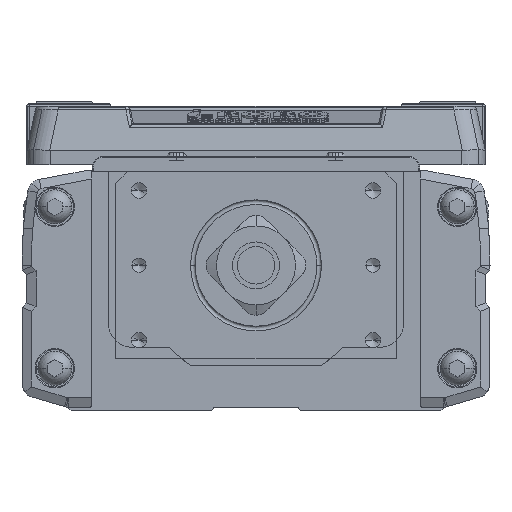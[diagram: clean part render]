
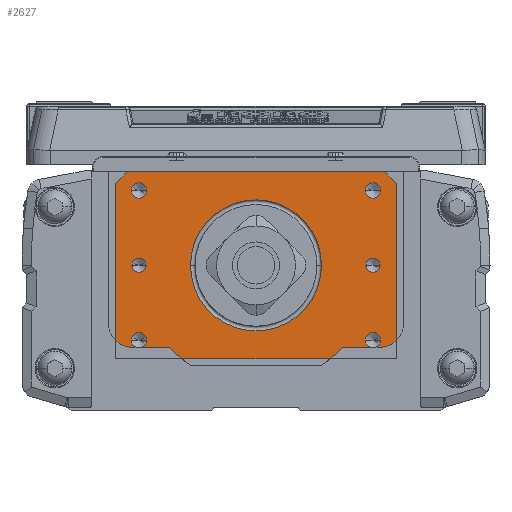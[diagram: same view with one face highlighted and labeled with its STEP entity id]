
A CAD part, left-side view. The second image highlights one B-rep face of the part: STEP entity #2627.
In plain terms, the highlighted planar face has unit normal (-1, 0, 0).
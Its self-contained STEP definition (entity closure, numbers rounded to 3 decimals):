
#2627=ADVANCED_FACE('',(#6734,#6735,#6736,#6737,#6738,#6739,#6740,#6741),#6742,.T.);
#6734=FACE_BOUND('',#12751,.T.);
#6735=FACE_BOUND('',#12752,.T.);
#6736=FACE_BOUND('',#12753,.T.);
#6737=FACE_BOUND('',#12754,.T.);
#6738=FACE_BOUND('',#12755,.T.);
#6739=FACE_BOUND('',#12756,.T.);
#6740=FACE_BOUND('',#12757,.T.);
#6741=FACE_OUTER_BOUND('',#12758,.T.);
#6742=PLANE('',#12759);
#12751=EDGE_LOOP('',(#20188,#20189));
#12752=EDGE_LOOP('',(#20190,#20191));
#12753=EDGE_LOOP('',(#20192,#20193));
#12754=EDGE_LOOP('',(#20194,#20195));
#12755=EDGE_LOOP('',(#20196,#20197));
#12756=EDGE_LOOP('',(#20198,#20199));
#12757=EDGE_LOOP('',(#20200,#20201,#20202));
#12758=EDGE_LOOP('',(#20203,#20204,#20205,#20206,#20207,#20208));
#12759=AXIS2_PLACEMENT_3D('',#20209,#20210,#20211);
#20188=ORIENTED_EDGE('',*,*,#36379,.T.);
#20189=ORIENTED_EDGE('',*,*,#36380,.T.);
#20190=ORIENTED_EDGE('',*,*,#36054,.T.);
#20191=ORIENTED_EDGE('',*,*,#36381,.T.);
#20192=ORIENTED_EDGE('',*,*,#36382,.T.);
#20193=ORIENTED_EDGE('',*,*,#35380,.T.);
#20194=ORIENTED_EDGE('',*,*,#36383,.T.);
#20195=ORIENTED_EDGE('',*,*,#36384,.T.);
#20196=ORIENTED_EDGE('',*,*,#36385,.T.);
#20197=ORIENTED_EDGE('',*,*,#36386,.T.);
#20198=ORIENTED_EDGE('',*,*,#36387,.T.);
#20199=ORIENTED_EDGE('',*,*,#36388,.T.);
#20200=ORIENTED_EDGE('',*,*,#36389,.T.);
#20201=ORIENTED_EDGE('',*,*,#35401,.T.);
#20202=ORIENTED_EDGE('',*,*,#36390,.T.);
#20203=ORIENTED_EDGE('',*,*,#36391,.F.);
#20204=ORIENTED_EDGE('',*,*,#36392,.F.);
#20205=ORIENTED_EDGE('',*,*,#36393,.T.);
#20206=ORIENTED_EDGE('',*,*,#36394,.T.);
#20207=ORIENTED_EDGE('',*,*,#36395,.F.);
#20208=ORIENTED_EDGE('',*,*,#36396,.T.);
#20209=CARTESIAN_POINT('',(-580.,0.,-20.));
#20210=DIRECTION('',(-1.0,0.,0.));
#20211=DIRECTION('',(0.,-1.0,0.));
#35380=EDGE_CURVE('',#42184,#42181,#42185,.T.);
#35401=EDGE_CURVE('',#42216,#42220,#42222,.T.);
#36054=EDGE_CURVE('',#43366,#43369,#43371,.T.);
#36379=EDGE_CURVE('',#43919,#43920,#43921,.T.);
#36380=EDGE_CURVE('',#43920,#43919,#43922,.T.);
#36381=EDGE_CURVE('',#43369,#43366,#43923,.T.);
#36382=EDGE_CURVE('',#42181,#42184,#43924,.T.);
#36383=EDGE_CURVE('',#43925,#43926,#43927,.T.);
#36384=EDGE_CURVE('',#43926,#43925,#43928,.T.);
#36385=EDGE_CURVE('',#43929,#43930,#43931,.T.);
#36386=EDGE_CURVE('',#43930,#43929,#43932,.T.);
#36387=EDGE_CURVE('',#43933,#43934,#43935,.T.);
#36388=EDGE_CURVE('',#43934,#43933,#43936,.T.);
#36389=EDGE_CURVE('',#43937,#42216,#43938,.T.);
#36390=EDGE_CURVE('',#42220,#43937,#43939,.T.);
#36391=EDGE_CURVE('',#43940,#43941,#43942,.T.);
#36392=EDGE_CURVE('',#43943,#43940,#43944,.T.);
#36393=EDGE_CURVE('',#43943,#43945,#43946,.T.);
#36394=EDGE_CURVE('',#43945,#43947,#43948,.T.);
#36395=EDGE_CURVE('',#43949,#43947,#43950,.T.);
#36396=EDGE_CURVE('',#43949,#43941,#43951,.T.);
#42181=VERTEX_POINT('',#52047);
#42184=VERTEX_POINT('',#52051);
#42185=CIRCLE('',#52052,1.65);
#42216=VERTEX_POINT('',#52090);
#42220=VERTEX_POINT('',#52094);
#42222=CIRCLE('',#52096,14.0);
#43366=VERTEX_POINT('',#53641);
#43369=VERTEX_POINT('',#53645);
#43371=CIRCLE('',#53648,1.5);
#43919=VERTEX_POINT('',#54458);
#43920=VERTEX_POINT('',#54459);
#43921=CIRCLE('',#54460,1.5);
#43922=CIRCLE('',#54461,1.5);
#43923=CIRCLE('',#54462,1.5);
#43924=CIRCLE('',#54463,1.65);
#43925=VERTEX_POINT('',#54464);
#43926=VERTEX_POINT('',#54465);
#43927=CIRCLE('',#54466,1.65);
#43928=CIRCLE('',#54467,1.65);
#43929=VERTEX_POINT('',#54468);
#43930=VERTEX_POINT('',#54469);
#43931=CIRCLE('',#54470,1.65);
#43932=CIRCLE('',#54471,1.65);
#43933=VERTEX_POINT('',#54472);
#43934=VERTEX_POINT('',#54473);
#43935=CIRCLE('',#54474,1.65);
#43936=CIRCLE('',#54475,1.65);
#43937=VERTEX_POINT('',#54476);
#43938=CIRCLE('',#54477,14.0);
#43939=CIRCLE('',#54478,14.0);
#43940=VERTEX_POINT('',#54479);
#43941=VERTEX_POINT('',#54480);
#43942=LINE('',#54481,#54482);
#43943=VERTEX_POINT('',#54483);
#43944=LINE('',#54484,#54485);
#43945=VERTEX_POINT('',#54486);
#43946=LINE('',#54487,#54488);
#43947=VERTEX_POINT('',#54489);
#43948=LINE('',#54490,#54491);
#43949=VERTEX_POINT('',#54492);
#43950=LINE('',#54493,#54494);
#43951=LINE('',#54495,#54496);
#52047=CARTESIAN_POINT('',(-580.,-26.65,-16.));
#52051=CARTESIAN_POINT('',(-580.,-23.35,-16.));
#52052=AXIS2_PLACEMENT_3D('',#65559,#65560,#65561);
#52090=CARTESIAN_POINT('',(-580.,14.,0.));
#52094=CARTESIAN_POINT('',(-580.,-14.,0.));
#52096=AXIS2_PLACEMENT_3D('',#65596,#65597,#65598);
#53641=CARTESIAN_POINT('',(-580.,26.5,0.));
#53645=CARTESIAN_POINT('',(-580.,23.5,0.));
#53648=AXIS2_PLACEMENT_3D('',#66543,#66544,#66545);
#54458=CARTESIAN_POINT('',(-580.,-26.5,0.));
#54459=CARTESIAN_POINT('',(-580.,-23.5,0.));
#54460=AXIS2_PLACEMENT_3D('',#66998,#66999,#67000);
#54461=AXIS2_PLACEMENT_3D('',#67001,#67002,#67003);
#54462=AXIS2_PLACEMENT_3D('',#67004,#67005,#67006);
#54463=AXIS2_PLACEMENT_3D('',#67007,#67008,#67009);
#54464=CARTESIAN_POINT('',(-580.,26.65,-16.));
#54465=CARTESIAN_POINT('',(-580.,23.35,-16.));
#54466=AXIS2_PLACEMENT_3D('',#67010,#67011,#67012);
#54467=AXIS2_PLACEMENT_3D('',#67013,#67014,#67015);
#54468=CARTESIAN_POINT('',(-580.,26.65,16.));
#54469=CARTESIAN_POINT('',(-580.,23.35,16.));
#54470=AXIS2_PLACEMENT_3D('',#67016,#67017,#67018);
#54471=AXIS2_PLACEMENT_3D('',#67019,#67020,#67021);
#54472=CARTESIAN_POINT('',(-580.,-26.65,16.));
#54473=CARTESIAN_POINT('',(-580.,-23.35,16.));
#54474=AXIS2_PLACEMENT_3D('',#67022,#67023,#67024);
#54475=AXIS2_PLACEMENT_3D('',#67025,#67026,#67027);
#54476=CARTESIAN_POINT('',(-580.,0.,-14.));
#54477=AXIS2_PLACEMENT_3D('',#67028,#67029,#67030);
#54478=AXIS2_PLACEMENT_3D('',#67031,#67032,#67033);
#54479=CARTESIAN_POINT('',(-580.,30.,17.5));
#54480=CARTESIAN_POINT('',(-580.,27.5,20.));
#54481=CARTESIAN_POINT('',(-580.,31.25,16.25));
#54482=VECTOR('',#67034,10.);
#54483=CARTESIAN_POINT('',(-580.,30.,-20.));
#54484=CARTESIAN_POINT('',(-580.,30.,-20.));
#54485=VECTOR('',#67035,10.0);
#54486=CARTESIAN_POINT('',(-580.,-30.,-20.));
#54487=CARTESIAN_POINT('',(-580.,30.,-20.));
#54488=VECTOR('',#67036,10.0);
#54489=CARTESIAN_POINT('',(-580.,-30.,17.5));
#54490=CARTESIAN_POINT('',(-580.,-30.,-20.));
#54491=VECTOR('',#67037,10.0);
#54492=CARTESIAN_POINT('',(-580.,-27.5,20.));
#54493=CARTESIAN_POINT('',(-580.,-31.25,16.25));
#54494=VECTOR('',#67038,10.);
#54495=CARTESIAN_POINT('',(-580.,30.,20.));
#54496=VECTOR('',#67039,10.0);
#65559=CARTESIAN_POINT('',(-580.,-25.,-16.));
#65560=DIRECTION('',(1.0,0.,0.));
#65561=DIRECTION('',(0.,-1.0,0.));
#65596=CARTESIAN_POINT('',(-580.,0.,0.));
#65597=DIRECTION('',(1.0,0.,0.));
#65598=DIRECTION('',(0.,0.,1.0));
#66543=CARTESIAN_POINT('',(-580.,25.,0.));
#66544=DIRECTION('',(1.0,0.,0.));
#66545=DIRECTION('',(0.,1.0,0.));
#66998=CARTESIAN_POINT('',(-580.,-25.,0.));
#66999=DIRECTION('',(1.0,0.,0.));
#67000=DIRECTION('',(0.,-1.0,0.));
#67001=CARTESIAN_POINT('',(-580.,-25.,0.));
#67002=DIRECTION('',(1.0,0.,0.));
#67003=DIRECTION('',(0.,-1.0,0.));
#67004=CARTESIAN_POINT('',(-580.,25.,0.));
#67005=DIRECTION('',(1.0,0.,0.));
#67006=DIRECTION('',(0.,1.0,0.));
#67007=CARTESIAN_POINT('',(-580.,-25.,-16.));
#67008=DIRECTION('',(1.0,0.,0.));
#67009=DIRECTION('',(0.,-1.0,0.));
#67010=CARTESIAN_POINT('',(-580.,25.,-16.));
#67011=DIRECTION('',(1.0,0.,0.));
#67012=DIRECTION('',(0.,1.0,0.));
#67013=CARTESIAN_POINT('',(-580.,25.,-16.));
#67014=DIRECTION('',(1.0,0.,0.));
#67015=DIRECTION('',(0.,1.0,0.));
#67016=CARTESIAN_POINT('',(-580.,25.,16.));
#67017=DIRECTION('',(1.0,0.,0.));
#67018=DIRECTION('',(0.,1.0,0.));
#67019=CARTESIAN_POINT('',(-580.,25.,16.));
#67020=DIRECTION('',(1.0,0.,0.));
#67021=DIRECTION('',(0.,1.0,0.));
#67022=CARTESIAN_POINT('',(-580.,-25.,16.));
#67023=DIRECTION('',(1.0,0.,0.));
#67024=DIRECTION('',(0.,-1.0,0.));
#67025=CARTESIAN_POINT('',(-580.,-25.,16.));
#67026=DIRECTION('',(1.0,0.,0.));
#67027=DIRECTION('',(0.,-1.0,0.));
#67028=CARTESIAN_POINT('',(-580.,0.,0.));
#67029=DIRECTION('',(1.0,0.,0.));
#67030=DIRECTION('',(0.,0.,1.0));
#67031=CARTESIAN_POINT('',(-580.,0.,0.));
#67032=DIRECTION('',(1.0,0.,0.));
#67033=DIRECTION('',(0.,0.,1.0));
#67034=DIRECTION('',(0.,-0.707,0.707));
#67035=DIRECTION('',(0.,0.,1.0));
#67036=DIRECTION('',(0.,-1.0,0.));
#67037=DIRECTION('',(0.,0.,1.0));
#67038=DIRECTION('',(0.0,-0.707,-0.707));
#67039=DIRECTION('',(0.,1.0,0.));
